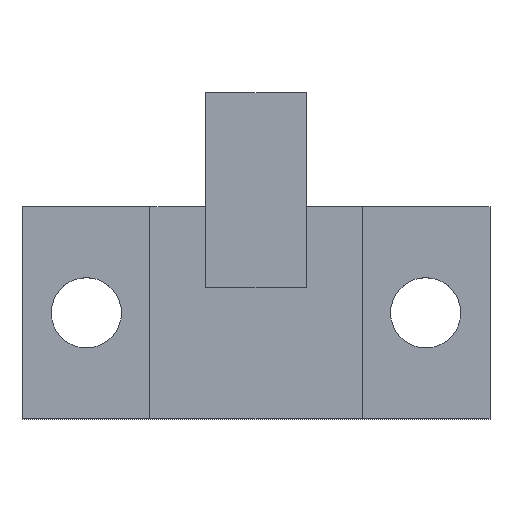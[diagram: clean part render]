
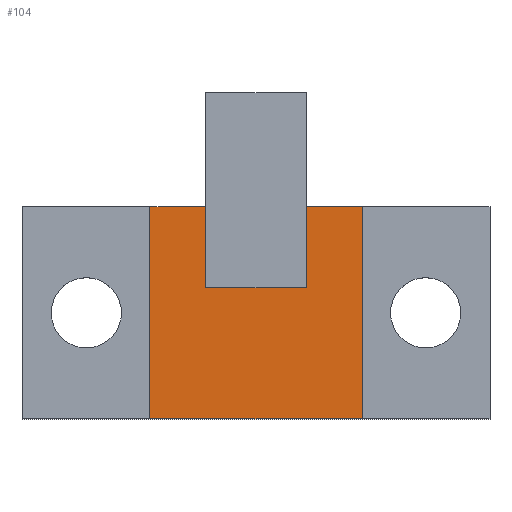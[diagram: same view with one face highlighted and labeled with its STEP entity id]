
A CAD part, top view. The second image highlights one B-rep face of the part: STEP entity #104.
In plain terms, the highlighted planar face has unit normal (0, 0, 1).
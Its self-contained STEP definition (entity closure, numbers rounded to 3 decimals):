
#104=ADVANCED_FACE('',(#257),#259,.T.);
#257=FACE_BOUND('',#258,.T.);
#258=EDGE_LOOP('',(#557,#558,#559,#560,#561,#562,#563,#564));
#259=PLANE('',#260);
#260=AXIS2_PLACEMENT_3D('',#261,#262,#263);
#261=CARTESIAN_POINT('',(0.,0.,4.4));
#262=DIRECTION('',(0.,0.,1.));
#263=DIRECTION('',(-1.,0.,0.));
#557=ORIENTED_EDGE('',*,*,#766,.T.);
#558=ORIENTED_EDGE('',*,*,#778,.F.);
#559=ORIENTED_EDGE('',*,*,#777,.T.);
#560=ORIENTED_EDGE('',*,*,#779,.T.);
#561=ORIENTED_EDGE('',*,*,#780,.T.);
#562=ORIENTED_EDGE('',*,*,#781,.T.);
#563=ORIENTED_EDGE('',*,*,#769,.T.);
#564=ORIENTED_EDGE('',*,*,#782,.F.);
#766=EDGE_CURVE('',#920,#921,#922,.T.);
#769=EDGE_CURVE('',#925,#905,#926,.T.);
#777=EDGE_CURVE('',#907,#939,#941,.T.);
#778=EDGE_CURVE('',#907,#921,#942,.T.);
#779=EDGE_CURVE('',#939,#943,#944,.T.);
#780=EDGE_CURVE('',#943,#945,#946,.T.);
#781=EDGE_CURVE('',#945,#925,#947,.T.);
#782=EDGE_CURVE('',#920,#905,#948,.T.);
#905=VERTEX_POINT('',#1032);
#907=VERTEX_POINT('',#1036);
#920=VERTEX_POINT('',#1065);
#921=VERTEX_POINT('',#1066);
#922=LINE('',#1067,#1068);
#925=VERTEX_POINT('',#1076);
#926=LINE('',#1077,#1078);
#939=VERTEX_POINT('',#1104);
#941=LINE('',#1108,#1109);
#942=LINE('',#1111,#1112);
#943=VERTEX_POINT('',#1114);
#944=LINE('',#1115,#1116);
#945=VERTEX_POINT('',#1118);
#946=LINE('',#1119,#1120);
#947=LINE('',#1122,#1123);
#948=LINE('',#1125,#1126);
#1032=CARTESIAN_POINT('',(3.,6.35,4.4));
#1036=CARTESIAN_POINT('',(-3.,6.35,4.4));
#1065=CARTESIAN_POINT('',(3.,1.5,4.4));
#1066=CARTESIAN_POINT('',(-3.,1.5,4.4));
#1067=CARTESIAN_POINT('',(3.,1.5,4.4));
#1068=VECTOR('',#1069,1.);
#1069=DIRECTION('',(-1.,0.,0.));
#1076=CARTESIAN_POINT('',(6.35,6.35,4.4));
#1077=CARTESIAN_POINT('',(6.35,6.35,4.4));
#1078=VECTOR('',#1079,1.);
#1079=DIRECTION('',(-1.,0.,0.));
#1104=CARTESIAN_POINT('',(-6.35,6.35,4.4));
#1108=CARTESIAN_POINT('',(-3.,6.35,4.4));
#1109=VECTOR('',#1110,1.);
#1110=DIRECTION('',(-1.,0.,0.));
#1111=CARTESIAN_POINT('',(-3.,6.35,4.4));
#1112=VECTOR('',#1113,1.);
#1113=DIRECTION('',(0.,-1.,0.));
#1114=CARTESIAN_POINT('',(-6.35,-6.35,4.4));
#1115=CARTESIAN_POINT('',(-6.35,6.35,4.4));
#1116=VECTOR('',#1117,1.);
#1117=DIRECTION('',(0.,-1.,0.));
#1118=CARTESIAN_POINT('',(6.35,-6.35,4.4));
#1119=CARTESIAN_POINT('',(-6.35,-6.35,4.4));
#1120=VECTOR('',#1121,1.);
#1121=DIRECTION('',(1.,0.,0.));
#1122=CARTESIAN_POINT('',(6.35,-6.35,4.4));
#1123=VECTOR('',#1124,1.);
#1124=DIRECTION('',(0.,1.,0.));
#1125=CARTESIAN_POINT('',(3.,1.5,4.4));
#1126=VECTOR('',#1127,1.);
#1127=DIRECTION('',(0.,1.,0.));
